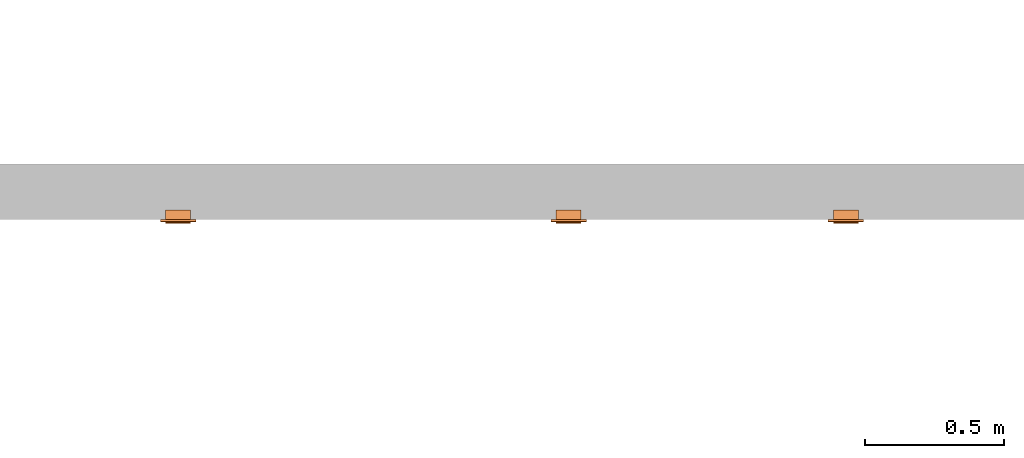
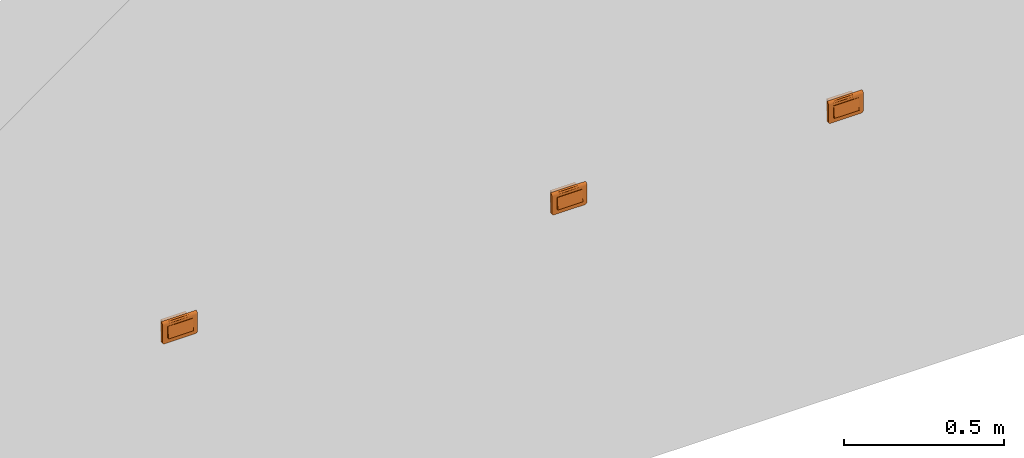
# One storey, part 146 of 197: 3 proxies.
"""IFC2X3 building model written with IfcOpenShell, lengths in metres."""

from ifc_helpers import new_model, entity, si_unit, converted_unit, direction, frame, origin, place, context, subcontext, project, spatial, faceted_brep, source, transform, mapped, material, material_list, type_object, type_shapes, element, save


model = new_model("IFC2X3")

# Units and contexts
model_context = context("Model", 3, precision=1e-05, world=origin(), true_north=direction((6.123031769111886e-17, 1.0)))
body_context = subcontext(model_context, "Body", "Model", "MODEL_VIEW")
ifc_project = project(units=[si_unit("LENGTHUNIT", "METRE"), converted_unit("PLANEANGLEUNIT", "DEGREE", entity("IfcPlaneAngleMeasure", 0.017453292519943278), si_unit("PLANEANGLEUNIT", "RADIAN"), dimensions=[0, 0, 0, 0, 0, 0, 0]), si_unit("AREAUNIT", "SQUARE_METRE")], contexts=[model_context])

# Site, building, storey
site_placement = place(None, origin())
site = spatial("IfcSite", under=ifc_project, at=site_placement, Name="Default", CompositionType="ELEMENT")
building_placement = place(site_placement, origin())
building = spatial("IfcBuilding", under=site, at=building_placement, CompositionType="ELEMENT")
storey_placement = place(building_placement, origin())
storey = spatial("IfcBuildingStorey", under=building, at=storey_placement, Name="Niveau 0", CompositionType="ELEMENT", Elevation=0.0)

# Proxies
ifc_material_1 = material(Name="<Unnamed>")
ifc_material_2 = material(Name="BETCE-DOIGT-BLANC")
ifc_material_3 = material(Name="BETCE-ENJOLIVEUR-BLANC")
ifc_material_list = material_list([ifc_material_1, ifc_material_2, ifc_material_3])
building_element_proxy_type_1 = type_object("IfcBuildingElementProxyType", Name="Tableau commande 1x4 modules encastré:2 SA + 1 BP + 1 VV", PredefinedType="NOTDEFINED", material=ifc_material_list)
shared_shape_1 = source(origin(), body_context, "Body", "Brep", [
    faceted_brep([(0.04499999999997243, 0.0, 0.022499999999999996), (0.04499999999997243, 0.03499999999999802, 0.022499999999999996), (0.02249999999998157, 0.03499999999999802, 0.022499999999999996), (0.02249999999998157, 0.0, 0.022499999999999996), (0.04499999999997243, 0.0, -0.022500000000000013), (0.02249999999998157, 0.0, -0.022500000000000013), (0.02249999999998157, 0.03499999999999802, -0.022500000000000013), (0.04499999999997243, 0.03499999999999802, -0.022500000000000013)], [[[0, 1, 2, 3]], [[4, 5, 6, 7]], [[1, 0, 4, 7]], [[2, 1, 7, 6]], [[3, 2, 6, 5]], [[0, 3, 5, 4]]]),
    faceted_brep([(0.02249999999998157, 0.0, 0.022499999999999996), (0.02249999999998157, 0.034999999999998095, 0.022499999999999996), (0.0, 0.034999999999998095, 0.022499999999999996), (0.0, 0.0, 0.022499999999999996), (0.02249999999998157, 0.0, -0.022500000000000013), (0.0, 0.0, -0.022500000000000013), (0.0, 0.034999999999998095, -0.022500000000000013), (0.02249999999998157, 0.034999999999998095, -0.022500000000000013)], [[[0, 1, 2, 3]], [[4, 5, 6, 7]], [[1, 0, 4, 7]], [[2, 1, 7, 6]], [[3, 2, 6, 5]], [[0, 3, 5, 4]]]),
    faceted_brep([(0.0, 0.0, 0.022499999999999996), (0.0, 0.034999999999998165, 0.022499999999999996), (-0.02250000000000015, 0.034999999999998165, 0.022499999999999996), (-0.02250000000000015, 0.0, 0.022499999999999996), (0.0, 0.0, -0.022500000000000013), (-0.02250000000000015, 0.0, -0.022500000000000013), (-0.02250000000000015, 0.034999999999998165, -0.022500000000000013), (0.0, 0.034999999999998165, -0.022500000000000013)], [[[0, 1, 2, 3]], [[4, 5, 6, 7]], [[1, 0, 4, 7]], [[2, 1, 7, 6]], [[3, 2, 6, 5]], [[0, 3, 5, 4]]]),
    faceted_brep([(-0.02250000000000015, 0.0, 0.022499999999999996), (-0.02250000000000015, 0.034999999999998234, 0.022499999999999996), (-0.044999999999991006, 0.034999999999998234, 0.022499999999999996), (-0.044999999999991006, 0.0, 0.022499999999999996), (-0.02250000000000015, 0.0, -0.022500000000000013), (-0.044999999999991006, 0.0, -0.022500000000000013), (-0.044999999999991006, 0.034999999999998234, -0.022500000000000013), (-0.02250000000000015, 0.034999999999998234, -0.022500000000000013)], [[[0, 1, 2, 3]], [[4, 5, 6, 7]], [[1, 0, 4, 7]], [[2, 1, 7, 6]], [[3, 2, 6, 5]], [[0, 3, 5, 4]]]),
    faceted_brep([(0.022500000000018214, -0.010500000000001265, 0.022499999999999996), (0.02250000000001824, -0.015000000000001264, -0.022500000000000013), (0.0450000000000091, -0.01500000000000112, -0.022500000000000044), (0.045000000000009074, -0.010500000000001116, 0.022499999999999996), (0.02250000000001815, 0.0, -0.022500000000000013), (0.02250000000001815, 0.0, 0.022499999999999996), (0.045000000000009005, 0.0, 0.022499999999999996), (0.045000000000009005, 0.0, -0.022500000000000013)], [[[0, 1, 2, 3]], [[4, 5, 6, 7]], [[5, 4, 1, 0]], [[6, 5, 0, 3]], [[7, 6, 3, 2]], [[4, 7, 2, 1]]]),
    faceted_brep([(-0.044999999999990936, -0.010500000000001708, 0.022500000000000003), (-0.044999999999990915, -0.015000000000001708, -0.022500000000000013), (-0.022500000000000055, -0.015000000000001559, -0.022499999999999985), (-0.022500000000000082, -0.01050000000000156, 0.022499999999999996), (-0.044999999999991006, 0.0, -0.022500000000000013), (-0.044999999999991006, 0.0, 0.022499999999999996), (-0.02250000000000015, 0.0, 0.022499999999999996), (-0.02250000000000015, 0.0, -0.022500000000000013)], [[[0, 1, 2, 3]], [[4, 5, 6, 7]], [[5, 4, 1, 0]], [[6, 5, 0, 3]], [[7, 6, 3, 2]], [[4, 7, 2, 1]]]),
    faceted_brep([(0.0, -0.010500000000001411, 0.022500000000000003), (0.0, -0.015000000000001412, -0.022500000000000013), (0.022499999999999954, -0.015000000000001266, -0.022500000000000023), (0.022499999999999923, -0.010500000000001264, 0.022499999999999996), (0.0, 0.0, -0.022500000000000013), (0.0, 0.0, 0.022499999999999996), (0.02249999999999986, 0.0, 0.022499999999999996), (0.02249999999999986, 0.0, -0.022500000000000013)], [[[0, 1, 2, 3]], [[4, 5, 6, 7]], [[5, 4, 1, 0]], [[6, 5, 0, 3]], [[7, 6, 3, 2]], [[4, 7, 2, 1]]]),
    faceted_brep([(-0.02250000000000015, 0.0, -0.022500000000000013), (-0.02250000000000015, 0.0, 0.022499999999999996), (0.0, 0.0, 0.022499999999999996), (0.0, 0.0, -0.022500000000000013), (-0.022500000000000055, -0.01500000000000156, -0.022500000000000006), (-0.022500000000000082, -0.010500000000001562, 0.022499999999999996), (0.0, -0.010500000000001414, 0.022499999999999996), (0.0, -0.015000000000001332, -0.022500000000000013)], [[[0, 1, 2, 3]], [[1, 0, 4, 5]], [[2, 1, 5, 6]], [[3, 2, 6, 7]], [[0, 3, 7, 4]], [[5, 4, 7, 6]]]),
    faceted_brep([(0.06350000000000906, -0.009000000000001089, -0.03299999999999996), (0.06350000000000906, -0.009000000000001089, 0.031999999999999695), (0.045000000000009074, -0.009000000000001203, -0.022500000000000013), (0.055500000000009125, -0.009000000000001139, -0.04099999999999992), (0.05757055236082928, -0.009000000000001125, -0.04072740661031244), (0.059500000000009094, -0.009000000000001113, -0.0399282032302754), (0.061156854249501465, -0.009000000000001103, -0.03865685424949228), (0.06322740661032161, -0.00900000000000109, -0.03507055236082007), (0.04500000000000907, -0.009000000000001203, 0.022499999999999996), (-0.04499999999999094, -0.009000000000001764, 0.022499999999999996), (-0.011124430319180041, -0.009000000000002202, 0.03199999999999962), (-0.06349999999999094, -0.009000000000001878, 0.031999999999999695), (-0.04499999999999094, -0.009000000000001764, -0.022500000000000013), (-0.06349999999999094, -0.009000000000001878, -0.032999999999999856), (-0.055499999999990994, -0.00900000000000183, -0.04099999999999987), (-0.05757055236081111, -0.009000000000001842, -0.040727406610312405), (-0.059499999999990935, -0.009000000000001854, -0.039928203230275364), (-0.06115685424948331, -0.009000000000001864, -0.038656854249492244), (-0.06322740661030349, -0.009000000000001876, -0.035070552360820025), (-0.06242820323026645, -0.009000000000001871, -0.03699999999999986), (0.062428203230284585, -0.009000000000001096, -0.036999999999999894), (-0.063499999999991, 0.0, -0.03299999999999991), (-0.063499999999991, 0.0, 0.04100000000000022), (-0.044999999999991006, 0.0, 0.022499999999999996), (-0.044999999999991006, 0.0, -0.022500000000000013), (-0.05549999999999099, 0.0, -0.04099999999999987), (-0.05757055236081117, 0.0, -0.040727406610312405), (-0.05949999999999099, 0.0, -0.039928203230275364), (-0.06322740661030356, 0.0, -0.035070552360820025), (0.045000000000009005, 0.0, 0.022499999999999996), (0.011124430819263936, 0.0, 0.041000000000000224), (0.063500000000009, 0.0, 0.041000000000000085), (0.06350000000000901, 0.0, -0.03299999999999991), (0.04500000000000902, 0.0, -0.022500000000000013), (0.05550000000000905, 0.0, -0.040999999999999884), (0.057570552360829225, 0.0, -0.04072740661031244), (0.05950000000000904, 0.0, -0.0399282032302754), (0.06322740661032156, 0.0, -0.03507055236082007), (0.06115685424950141, 0.0, -0.03865685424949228), (0.06242820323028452, 0.0, -0.036999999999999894), (-0.06115685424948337, 0.0, -0.038656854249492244), (-0.062428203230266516, 0.0, -0.03699999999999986), (0.06350000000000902, -0.002329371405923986, 0.04069333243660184), (0.06350000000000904, -0.004500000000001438, 0.03979422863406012), (0.06350000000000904, -0.006363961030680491, 0.038363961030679), (0.06350000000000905, -0.007794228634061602, 0.03649999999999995), (0.06350000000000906, -0.008693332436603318, 0.0343293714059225), (-0.06349999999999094, -0.008693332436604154, 0.03432937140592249), (-0.06349999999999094, -0.0077942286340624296, 0.03649999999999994), (-0.06349999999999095, -0.006363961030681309, 0.038363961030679), (-0.06349999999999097, -0.004500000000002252, 0.039794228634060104), (-0.06349999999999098, -0.002329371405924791, 0.04069333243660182), (-0.010857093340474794, -0.006120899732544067, 0.03859807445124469)], [[[0, 1, 2]], [[3, 0, 2]], [[0, 3, 4]], [[0, 4, 5]], [[5, 6, 0]], [[7, 0, 6]], [[2, 1, 8]], [[1, 9, 8]], [[9, 1, 10]], [[9, 10, 11]], [[12, 9, 11]], [[13, 12, 11]], [[14, 12, 13]], [[14, 13, 15]], [[16, 15, 13]], [[13, 17, 16]], [[17, 13, 18]], [[17, 18, 19]], [[12, 14, 3]], [[2, 12, 3]], [[20, 7, 6]], [[21, 22, 23]], [[24, 21, 23]], [[25, 21, 24]], [[21, 25, 26]], [[21, 26, 27]], [[28, 21, 27]], [[22, 29, 23]], [[29, 22, 30]], [[29, 30, 31]], [[32, 29, 31]], [[33, 29, 32]], [[34, 33, 32]], [[34, 32, 35]], [[36, 35, 32]], [[36, 32, 37]], [[37, 38, 36]], [[38, 37, 39]], [[33, 34, 25]], [[24, 33, 25]], [[27, 40, 28]], [[41, 28, 40]], [[1, 0, 32, 31, 42, 43, 44, 45, 46]], [[37, 32, 0, 7]], [[39, 37, 7, 20]], [[38, 39, 20, 6]], [[36, 38, 6, 5]], [[35, 36, 5, 4]], [[34, 35, 4, 3]], [[25, 34, 3, 14]], [[26, 25, 14, 15]], [[27, 26, 15, 16]], [[40, 27, 16, 17]], [[41, 40, 17, 19]], [[28, 41, 19, 18]], [[21, 28, 18, 13]], [[22, 21, 13, 11, 47, 48, 49, 50, 51]], [[24, 23, 9, 12]], [[33, 24, 12, 2]], [[29, 33, 2, 8]], [[23, 29, 8, 9]], [[52, 10, 45]], [[47, 11, 10]], [[1, 46, 10]], [[44, 52, 45]], [[46, 45, 10]], [[50, 52, 51]], [[48, 47, 10]], [[30, 52, 43]], [[48, 52, 49]], [[42, 31, 30]], [[30, 22, 51]], [[48, 10, 52]], [[30, 43, 42]], [[44, 43, 52]], [[52, 50, 49]], [[52, 30, 51]]]),
])
type_shapes(building_element_proxy_type_1, [shared_shape_1])
proxy_1_placement = place(storey_placement, frame((-375.85977966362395, 122.781355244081, 1.1)))
element("IfcBuildingElementProxy", 1, at=proxy_1_placement, inside=storey, type_object=building_element_proxy_type_1, material=ifc_material_list, Name="Tableau commande 1x4 modules encastré:2 SA + 1 BP + 1 VV", ObjectType="Tableau commande 1x4 modules encastré:2 SA + 1 BP + 1 VV", context=body_context, shape_type="MappedRepresentation", body=[
    mapped(shared_shape_1, transform((0.0, 0.0, 0.0), scale=1.0)),
])
building_element_proxy_type_2 = type_object("IfcBuildingElementProxyType", Name="Tableau commande 1x4 modules encastré:2 SA + 2 BP", PredefinedType="NOTDEFINED", material=ifc_material_list)
shared_shape_2 = source(origin(), body_context, "Body", "Brep", [
    faceted_brep([(0.04499999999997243, 0.0, 0.022499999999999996), (0.04499999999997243, 0.03499999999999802, 0.022499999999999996), (0.02249999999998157, 0.03499999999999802, 0.022499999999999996), (0.02249999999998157, 0.0, 0.022499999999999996), (0.04499999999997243, 0.0, -0.022500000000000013), (0.02249999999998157, 0.0, -0.022500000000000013), (0.02249999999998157, 0.03499999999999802, -0.022500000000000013), (0.04499999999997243, 0.03499999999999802, -0.022500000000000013)], [[[0, 1, 2, 3]], [[4, 5, 6, 7]], [[1, 0, 4, 7]], [[2, 1, 7, 6]], [[3, 2, 6, 5]], [[0, 3, 5, 4]]]),
    faceted_brep([(0.02249999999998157, 0.0, 0.022499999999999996), (0.02249999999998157, 0.034999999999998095, 0.022499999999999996), (0.0, 0.034999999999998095, 0.022499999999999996), (0.0, 0.0, 0.022499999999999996), (0.02249999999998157, 0.0, -0.022500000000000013), (0.0, 0.0, -0.022500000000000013), (0.0, 0.034999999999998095, -0.022500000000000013), (0.02249999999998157, 0.034999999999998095, -0.022500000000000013)], [[[0, 1, 2, 3]], [[4, 5, 6, 7]], [[1, 0, 4, 7]], [[2, 1, 7, 6]], [[3, 2, 6, 5]], [[0, 3, 5, 4]]]),
    faceted_brep([(0.0, 0.0, 0.022499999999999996), (0.0, 0.034999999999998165, 0.022499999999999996), (-0.02250000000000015, 0.034999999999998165, 0.022499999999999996), (-0.02250000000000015, 0.0, 0.022499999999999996), (0.0, 0.0, -0.022500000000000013), (-0.02250000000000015, 0.0, -0.022500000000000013), (-0.02250000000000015, 0.034999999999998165, -0.022500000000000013), (0.0, 0.034999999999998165, -0.022500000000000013)], [[[0, 1, 2, 3]], [[4, 5, 6, 7]], [[1, 0, 4, 7]], [[2, 1, 7, 6]], [[3, 2, 6, 5]], [[0, 3, 5, 4]]]),
    faceted_brep([(-0.02250000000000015, 0.0, 0.022499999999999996), (-0.02250000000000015, 0.034999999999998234, 0.022499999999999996), (-0.044999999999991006, 0.034999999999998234, 0.022499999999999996), (-0.044999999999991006, 0.0, 0.022499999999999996), (-0.02250000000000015, 0.0, -0.022500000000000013), (-0.044999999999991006, 0.0, -0.022500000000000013), (-0.044999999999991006, 0.034999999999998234, -0.022500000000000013), (-0.02250000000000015, 0.034999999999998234, -0.022500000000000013)], [[[0, 1, 2, 3]], [[4, 5, 6, 7]], [[1, 0, 4, 7]], [[2, 1, 7, 6]], [[3, 2, 6, 5]], [[0, 3, 5, 4]]]),
    faceted_brep([(0.022500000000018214, -0.010500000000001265, 0.022499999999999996), (0.02250000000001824, -0.015000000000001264, -0.022500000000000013), (0.0450000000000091, -0.01500000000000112, -0.022500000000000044), (0.045000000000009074, -0.010500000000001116, 0.022499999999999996), (0.02250000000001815, 0.0, -0.022500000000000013), (0.02250000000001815, 0.0, 0.022499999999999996), (0.045000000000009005, 0.0, 0.022499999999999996), (0.045000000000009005, 0.0, -0.022500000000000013)], [[[0, 1, 2, 3]], [[4, 5, 6, 7]], [[5, 4, 1, 0]], [[6, 5, 0, 3]], [[7, 6, 3, 2]], [[4, 7, 2, 1]]]),
    faceted_brep([(-0.044999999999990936, -0.010500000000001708, 0.022500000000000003), (-0.044999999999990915, -0.015000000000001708, -0.022500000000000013), (-0.022500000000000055, -0.015000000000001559, -0.022499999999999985), (-0.022500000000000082, -0.01050000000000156, 0.022499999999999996), (-0.044999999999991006, 0.0, -0.022500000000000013), (-0.044999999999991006, 0.0, 0.022499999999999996), (-0.02250000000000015, 0.0, 0.022499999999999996), (-0.02250000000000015, 0.0, -0.022500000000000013)], [[[0, 1, 2, 3]], [[4, 5, 6, 7]], [[5, 4, 1, 0]], [[6, 5, 0, 3]], [[7, 6, 3, 2]], [[4, 7, 2, 1]]]),
    faceted_brep([(0.0, -0.010500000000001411, 0.022500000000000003), (0.0, -0.015000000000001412, -0.022500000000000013), (0.022499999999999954, -0.015000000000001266, -0.022500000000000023), (0.022499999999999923, -0.010500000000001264, 0.022499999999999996), (0.0, 0.0, -0.022500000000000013), (0.0, 0.0, 0.022499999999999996), (0.02249999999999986, 0.0, 0.022499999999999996), (0.02249999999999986, 0.0, -0.022500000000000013)], [[[0, 1, 2, 3]], [[4, 5, 6, 7]], [[5, 4, 1, 0]], [[6, 5, 0, 3]], [[7, 6, 3, 2]], [[4, 7, 2, 1]]]),
    faceted_brep([(-0.02250000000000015, 0.0, -0.022500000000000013), (-0.02250000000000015, 0.0, 0.022499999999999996), (0.0, 0.0, 0.022499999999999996), (0.0, 0.0, -0.022500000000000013), (-0.022500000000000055, -0.01500000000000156, -0.022500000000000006), (-0.022500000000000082, -0.010500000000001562, 0.022499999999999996), (0.0, -0.010500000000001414, 0.022499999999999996), (0.0, -0.015000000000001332, -0.022500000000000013)], [[[0, 1, 2, 3]], [[1, 0, 4, 5]], [[2, 1, 5, 6]], [[3, 2, 6, 7]], [[0, 3, 7, 4]], [[5, 4, 7, 6]]]),
    faceted_brep([(0.06350000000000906, -0.009000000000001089, -0.03299999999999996), (0.06350000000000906, -0.009000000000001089, 0.031999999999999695), (0.045000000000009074, -0.009000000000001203, -0.022500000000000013), (0.055500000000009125, -0.009000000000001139, -0.04099999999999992), (0.05757055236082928, -0.009000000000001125, -0.04072740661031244), (0.059500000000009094, -0.009000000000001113, -0.0399282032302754), (0.061156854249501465, -0.009000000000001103, -0.03865685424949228), (0.06322740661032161, -0.00900000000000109, -0.03507055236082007), (0.04500000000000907, -0.009000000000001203, 0.022499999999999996), (-0.04499999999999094, -0.009000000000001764, 0.022499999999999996), (-0.011124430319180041, -0.009000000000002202, 0.03199999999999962), (-0.06349999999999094, -0.009000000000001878, 0.031999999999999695), (-0.04499999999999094, -0.009000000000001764, -0.022500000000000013), (-0.06349999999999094, -0.009000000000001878, -0.032999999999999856), (-0.055499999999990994, -0.00900000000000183, -0.04099999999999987), (-0.05757055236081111, -0.009000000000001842, -0.040727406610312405), (-0.059499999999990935, -0.009000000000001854, -0.039928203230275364), (-0.06115685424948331, -0.009000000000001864, -0.038656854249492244), (-0.06322740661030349, -0.009000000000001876, -0.035070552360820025), (-0.06242820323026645, -0.009000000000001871, -0.03699999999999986), (0.062428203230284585, -0.009000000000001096, -0.036999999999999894), (-0.063499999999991, 0.0, -0.03299999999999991), (-0.063499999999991, 0.0, 0.04100000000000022), (-0.044999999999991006, 0.0, 0.022499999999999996), (-0.044999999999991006, 0.0, -0.022500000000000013), (-0.05549999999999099, 0.0, -0.04099999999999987), (-0.05757055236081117, 0.0, -0.040727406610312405), (-0.05949999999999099, 0.0, -0.039928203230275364), (-0.06322740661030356, 0.0, -0.035070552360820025), (0.045000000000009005, 0.0, 0.022499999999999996), (0.011124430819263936, 0.0, 0.041000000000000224), (0.063500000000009, 0.0, 0.041000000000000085), (0.06350000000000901, 0.0, -0.03299999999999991), (0.04500000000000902, 0.0, -0.022500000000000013), (0.05550000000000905, 0.0, -0.040999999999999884), (0.057570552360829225, 0.0, -0.04072740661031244), (0.05950000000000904, 0.0, -0.0399282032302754), (0.06322740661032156, 0.0, -0.03507055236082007), (0.06115685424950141, 0.0, -0.03865685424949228), (0.06242820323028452, 0.0, -0.036999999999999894), (-0.06115685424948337, 0.0, -0.038656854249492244), (-0.062428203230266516, 0.0, -0.03699999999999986), (0.06350000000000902, -0.002329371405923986, 0.04069333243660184), (0.06350000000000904, -0.004500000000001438, 0.03979422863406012), (0.06350000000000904, -0.006363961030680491, 0.038363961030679), (0.06350000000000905, -0.007794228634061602, 0.03649999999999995), (0.06350000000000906, -0.008693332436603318, 0.0343293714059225), (-0.06349999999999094, -0.008693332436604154, 0.03432937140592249), (-0.06349999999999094, -0.0077942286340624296, 0.03649999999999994), (-0.06349999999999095, -0.006363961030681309, 0.038363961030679), (-0.06349999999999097, -0.004500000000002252, 0.039794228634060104), (-0.06349999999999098, -0.002329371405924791, 0.04069333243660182), (-0.010857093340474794, -0.006120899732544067, 0.03859807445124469)], [[[0, 1, 2]], [[3, 0, 2]], [[0, 3, 4]], [[0, 4, 5]], [[5, 6, 0]], [[7, 0, 6]], [[2, 1, 8]], [[1, 9, 8]], [[9, 1, 10]], [[9, 10, 11]], [[12, 9, 11]], [[13, 12, 11]], [[14, 12, 13]], [[14, 13, 15]], [[16, 15, 13]], [[13, 17, 16]], [[17, 13, 18]], [[17, 18, 19]], [[12, 14, 3]], [[2, 12, 3]], [[20, 7, 6]], [[21, 22, 23]], [[24, 21, 23]], [[25, 21, 24]], [[21, 25, 26]], [[21, 26, 27]], [[28, 21, 27]], [[22, 29, 23]], [[29, 22, 30]], [[29, 30, 31]], [[32, 29, 31]], [[33, 29, 32]], [[34, 33, 32]], [[34, 32, 35]], [[36, 35, 32]], [[36, 32, 37]], [[37, 38, 36]], [[38, 37, 39]], [[33, 34, 25]], [[24, 33, 25]], [[27, 40, 28]], [[41, 28, 40]], [[1, 0, 32, 31, 42, 43, 44, 45, 46]], [[37, 32, 0, 7]], [[39, 37, 7, 20]], [[38, 39, 20, 6]], [[36, 38, 6, 5]], [[35, 36, 5, 4]], [[34, 35, 4, 3]], [[25, 34, 3, 14]], [[26, 25, 14, 15]], [[27, 26, 15, 16]], [[40, 27, 16, 17]], [[41, 40, 17, 19]], [[28, 41, 19, 18]], [[21, 28, 18, 13]], [[22, 21, 13, 11, 47, 48, 49, 50, 51]], [[24, 23, 9, 12]], [[33, 24, 12, 2]], [[29, 33, 2, 8]], [[23, 29, 8, 9]], [[52, 10, 45]], [[47, 11, 10]], [[1, 46, 10]], [[44, 52, 45]], [[46, 45, 10]], [[50, 52, 51]], [[48, 47, 10]], [[30, 52, 43]], [[48, 52, 49]], [[42, 31, 30]], [[30, 22, 51]], [[48, 10, 52]], [[30, 43, 42]], [[44, 43, 52]], [[52, 50, 49]], [[52, 30, 51]]]),
])
type_shapes(building_element_proxy_type_2, [shared_shape_2])
proxy_2_placement = place(storey_placement, frame((-374.450779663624, 122.781355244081, 1.1)))
element("IfcBuildingElementProxy", 2, at=proxy_2_placement, inside=storey, type_object=building_element_proxy_type_2, material=ifc_material_list, Name="Tableau commande 1x4 modules encastré:2 SA + 2 BP", ObjectType="Tableau commande 1x4 modules encastré:2 SA + 2 BP", context=body_context, shape_type="MappedRepresentation", body=[
    mapped(shared_shape_2, transform((0.0, 0.0, 0.0), scale=1.0)),
])
building_element_proxy_type_3 = type_object("IfcBuildingElementProxyType", Name="Tableau commande 1x4 modules encastré:2 VV + 2 BP", PredefinedType="NOTDEFINED", material=ifc_material_list)
shared_shape_3 = source(origin(), body_context, "Body", "Brep", [
    faceted_brep([(0.04499999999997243, 0.0, 0.022499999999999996), (0.04499999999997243, 0.03499999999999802, 0.022499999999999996), (0.02249999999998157, 0.03499999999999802, 0.022499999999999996), (0.02249999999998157, 0.0, 0.022499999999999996), (0.04499999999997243, 0.0, -0.022500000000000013), (0.02249999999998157, 0.0, -0.022500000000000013), (0.02249999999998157, 0.03499999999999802, -0.022500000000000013), (0.04499999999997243, 0.03499999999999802, -0.022500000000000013)], [[[0, 1, 2, 3]], [[4, 5, 6, 7]], [[1, 0, 4, 7]], [[2, 1, 7, 6]], [[3, 2, 6, 5]], [[0, 3, 5, 4]]]),
    faceted_brep([(0.02249999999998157, 0.0, 0.022499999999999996), (0.02249999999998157, 0.034999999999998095, 0.022499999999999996), (0.0, 0.034999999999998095, 0.022499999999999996), (0.0, 0.0, 0.022499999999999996), (0.02249999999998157, 0.0, -0.022500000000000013), (0.0, 0.0, -0.022500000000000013), (0.0, 0.034999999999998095, -0.022500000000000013), (0.02249999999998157, 0.034999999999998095, -0.022500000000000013)], [[[0, 1, 2, 3]], [[4, 5, 6, 7]], [[1, 0, 4, 7]], [[2, 1, 7, 6]], [[3, 2, 6, 5]], [[0, 3, 5, 4]]]),
    faceted_brep([(0.0, 0.0, 0.022499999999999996), (0.0, 0.034999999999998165, 0.022499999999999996), (-0.02250000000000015, 0.034999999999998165, 0.022499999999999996), (-0.02250000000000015, 0.0, 0.022499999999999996), (0.0, 0.0, -0.022500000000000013), (-0.02250000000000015, 0.0, -0.022500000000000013), (-0.02250000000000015, 0.034999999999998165, -0.022500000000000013), (0.0, 0.034999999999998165, -0.022500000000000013)], [[[0, 1, 2, 3]], [[4, 5, 6, 7]], [[1, 0, 4, 7]], [[2, 1, 7, 6]], [[3, 2, 6, 5]], [[0, 3, 5, 4]]]),
    faceted_brep([(-0.02250000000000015, 0.0, 0.022499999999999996), (-0.02250000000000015, 0.034999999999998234, 0.022499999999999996), (-0.044999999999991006, 0.034999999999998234, 0.022499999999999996), (-0.044999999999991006, 0.0, 0.022499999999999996), (-0.02250000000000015, 0.0, -0.022500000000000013), (-0.044999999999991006, 0.0, -0.022500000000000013), (-0.044999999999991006, 0.034999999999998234, -0.022500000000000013), (-0.02250000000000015, 0.034999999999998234, -0.022500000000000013)], [[[0, 1, 2, 3]], [[4, 5, 6, 7]], [[1, 0, 4, 7]], [[2, 1, 7, 6]], [[3, 2, 6, 5]], [[0, 3, 5, 4]]]),
    faceted_brep([(0.022500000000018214, -0.010500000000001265, 0.022499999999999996), (0.02250000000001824, -0.015000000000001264, -0.022500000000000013), (0.0450000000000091, -0.01500000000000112, -0.022500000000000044), (0.045000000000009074, -0.010500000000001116, 0.022499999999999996), (0.02250000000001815, 0.0, -0.022500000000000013), (0.02250000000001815, 0.0, 0.022499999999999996), (0.045000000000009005, 0.0, 0.022499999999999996), (0.045000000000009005, 0.0, -0.022500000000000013)], [[[0, 1, 2, 3]], [[4, 5, 6, 7]], [[5, 4, 1, 0]], [[6, 5, 0, 3]], [[7, 6, 3, 2]], [[4, 7, 2, 1]]]),
    faceted_brep([(-0.044999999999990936, -0.010500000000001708, 0.022500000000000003), (-0.044999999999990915, -0.015000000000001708, -0.022500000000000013), (-0.022500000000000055, -0.015000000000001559, -0.022499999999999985), (-0.022500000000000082, -0.01050000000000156, 0.022499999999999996), (-0.044999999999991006, 0.0, -0.022500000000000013), (-0.044999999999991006, 0.0, 0.022499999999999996), (-0.02250000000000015, 0.0, 0.022499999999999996), (-0.02250000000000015, 0.0, -0.022500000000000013)], [[[0, 1, 2, 3]], [[4, 5, 6, 7]], [[5, 4, 1, 0]], [[6, 5, 0, 3]], [[7, 6, 3, 2]], [[4, 7, 2, 1]]]),
    faceted_brep([(0.0, -0.010500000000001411, 0.022500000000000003), (0.0, -0.015000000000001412, -0.022500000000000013), (0.022499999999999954, -0.015000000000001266, -0.022500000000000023), (0.022499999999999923, -0.010500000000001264, 0.022499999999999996), (0.0, 0.0, -0.022500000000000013), (0.0, 0.0, 0.022499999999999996), (0.02249999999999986, 0.0, 0.022499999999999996), (0.02249999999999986, 0.0, -0.022500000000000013)], [[[0, 1, 2, 3]], [[4, 5, 6, 7]], [[5, 4, 1, 0]], [[6, 5, 0, 3]], [[7, 6, 3, 2]], [[4, 7, 2, 1]]]),
    faceted_brep([(-0.02250000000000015, 0.0, -0.022500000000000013), (-0.02250000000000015, 0.0, 0.022499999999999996), (0.0, 0.0, 0.022499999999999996), (0.0, 0.0, -0.022500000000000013), (-0.022500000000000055, -0.01500000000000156, -0.022500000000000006), (-0.022500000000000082, -0.010500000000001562, 0.022499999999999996), (0.0, -0.010500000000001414, 0.022499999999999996), (0.0, -0.015000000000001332, -0.022500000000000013)], [[[0, 1, 2, 3]], [[1, 0, 4, 5]], [[2, 1, 5, 6]], [[3, 2, 6, 7]], [[0, 3, 7, 4]], [[5, 4, 7, 6]]]),
    faceted_brep([(0.06350000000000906, -0.009000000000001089, -0.03299999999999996), (0.06350000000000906, -0.009000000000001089, 0.031999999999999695), (0.045000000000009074, -0.009000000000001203, -0.022500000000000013), (0.055500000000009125, -0.009000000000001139, -0.04099999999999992), (0.05757055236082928, -0.009000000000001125, -0.04072740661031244), (0.059500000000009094, -0.009000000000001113, -0.0399282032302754), (0.061156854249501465, -0.009000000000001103, -0.03865685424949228), (0.06322740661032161, -0.00900000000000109, -0.03507055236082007), (0.04500000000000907, -0.009000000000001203, 0.022499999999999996), (-0.04499999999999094, -0.009000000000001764, 0.022499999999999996), (-0.011124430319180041, -0.009000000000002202, 0.03199999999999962), (-0.06349999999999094, -0.009000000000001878, 0.031999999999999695), (-0.04499999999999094, -0.009000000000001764, -0.022500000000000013), (-0.06349999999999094, -0.009000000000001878, -0.032999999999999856), (-0.055499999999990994, -0.00900000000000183, -0.04099999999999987), (-0.05757055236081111, -0.009000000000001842, -0.040727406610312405), (-0.059499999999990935, -0.009000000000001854, -0.039928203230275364), (-0.06115685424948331, -0.009000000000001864, -0.038656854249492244), (-0.06322740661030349, -0.009000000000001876, -0.035070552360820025), (-0.06242820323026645, -0.009000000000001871, -0.03699999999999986), (0.062428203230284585, -0.009000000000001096, -0.036999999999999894), (-0.063499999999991, 0.0, -0.03299999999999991), (-0.063499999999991, 0.0, 0.04100000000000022), (-0.044999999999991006, 0.0, 0.022499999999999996), (-0.044999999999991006, 0.0, -0.022500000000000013), (-0.05549999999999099, 0.0, -0.04099999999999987), (-0.05757055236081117, 0.0, -0.040727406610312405), (-0.05949999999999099, 0.0, -0.039928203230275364), (-0.06322740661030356, 0.0, -0.035070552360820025), (0.045000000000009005, 0.0, 0.022499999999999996), (0.011124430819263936, 0.0, 0.041000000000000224), (0.063500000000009, 0.0, 0.041000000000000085), (0.06350000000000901, 0.0, -0.03299999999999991), (0.04500000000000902, 0.0, -0.022500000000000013), (0.05550000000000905, 0.0, -0.040999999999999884), (0.057570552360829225, 0.0, -0.04072740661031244), (0.05950000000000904, 0.0, -0.0399282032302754), (0.06322740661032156, 0.0, -0.03507055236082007), (0.06115685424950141, 0.0, -0.03865685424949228), (0.06242820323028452, 0.0, -0.036999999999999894), (-0.06115685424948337, 0.0, -0.038656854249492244), (-0.062428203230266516, 0.0, -0.03699999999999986), (0.06350000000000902, -0.002329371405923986, 0.04069333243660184), (0.06350000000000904, -0.004500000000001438, 0.03979422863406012), (0.06350000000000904, -0.006363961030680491, 0.038363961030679), (0.06350000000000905, -0.007794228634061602, 0.03649999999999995), (0.06350000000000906, -0.008693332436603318, 0.0343293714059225), (-0.06349999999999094, -0.008693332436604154, 0.03432937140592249), (-0.06349999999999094, -0.0077942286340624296, 0.03649999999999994), (-0.06349999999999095, -0.006363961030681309, 0.038363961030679), (-0.06349999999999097, -0.004500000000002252, 0.039794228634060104), (-0.06349999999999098, -0.002329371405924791, 0.04069333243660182), (-0.010857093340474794, -0.006120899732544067, 0.03859807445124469)], [[[0, 1, 2]], [[3, 0, 2]], [[0, 3, 4]], [[0, 4, 5]], [[5, 6, 0]], [[7, 0, 6]], [[2, 1, 8]], [[1, 9, 8]], [[9, 1, 10]], [[9, 10, 11]], [[12, 9, 11]], [[13, 12, 11]], [[14, 12, 13]], [[14, 13, 15]], [[16, 15, 13]], [[13, 17, 16]], [[17, 13, 18]], [[17, 18, 19]], [[12, 14, 3]], [[2, 12, 3]], [[20, 7, 6]], [[21, 22, 23]], [[24, 21, 23]], [[25, 21, 24]], [[21, 25, 26]], [[21, 26, 27]], [[28, 21, 27]], [[22, 29, 23]], [[29, 22, 30]], [[29, 30, 31]], [[32, 29, 31]], [[33, 29, 32]], [[34, 33, 32]], [[34, 32, 35]], [[36, 35, 32]], [[36, 32, 37]], [[37, 38, 36]], [[38, 37, 39]], [[33, 34, 25]], [[24, 33, 25]], [[27, 40, 28]], [[41, 28, 40]], [[1, 0, 32, 31, 42, 43, 44, 45, 46]], [[37, 32, 0, 7]], [[39, 37, 7, 20]], [[38, 39, 20, 6]], [[36, 38, 6, 5]], [[35, 36, 5, 4]], [[34, 35, 4, 3]], [[25, 34, 3, 14]], [[26, 25, 14, 15]], [[27, 26, 15, 16]], [[40, 27, 16, 17]], [[41, 40, 17, 19]], [[28, 41, 19, 18]], [[21, 28, 18, 13]], [[22, 21, 13, 11, 47, 48, 49, 50, 51]], [[24, 23, 9, 12]], [[33, 24, 12, 2]], [[29, 33, 2, 8]], [[23, 29, 8, 9]], [[52, 10, 45]], [[47, 11, 10]], [[1, 46, 10]], [[44, 52, 45]], [[46, 45, 10]], [[50, 52, 51]], [[48, 47, 10]], [[30, 52, 43]], [[48, 52, 49]], [[42, 31, 30]], [[30, 22, 51]], [[48, 10, 52]], [[30, 43, 42]], [[44, 43, 52]], [[52, 50, 49]], [[52, 30, 51]]]),
])
type_shapes(building_element_proxy_type_3, [shared_shape_3])
proxy_3_placement = place(storey_placement, frame((-373.450779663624, 122.781355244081, 1.1)))
element("IfcBuildingElementProxy", 3, at=proxy_3_placement, inside=storey, type_object=building_element_proxy_type_3, material=ifc_material_list, Name="Tableau commande 1x4 modules encastré:2 VV + 2 BP", ObjectType="Tableau commande 1x4 modules encastré:2 VV + 2 BP", context=body_context, shape_type="MappedRepresentation", body=[
    mapped(shared_shape_3, transform((0.0, 0.0, 0.0), scale=1.0)),
])

save(model, "model.ifc")
